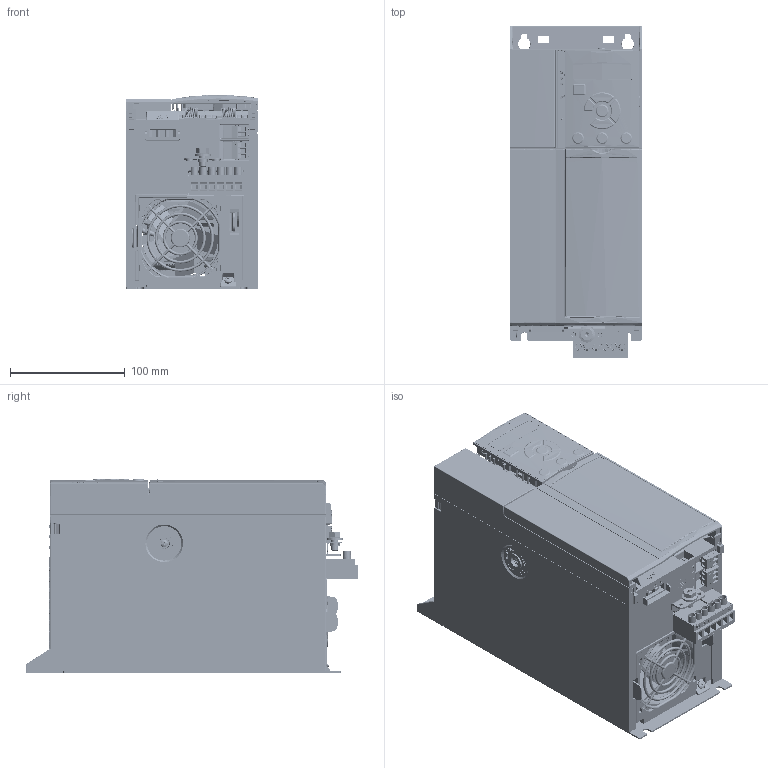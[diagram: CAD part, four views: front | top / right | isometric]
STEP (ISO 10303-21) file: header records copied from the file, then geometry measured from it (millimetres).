
FILE_DESCRIPTION((''),'2;1');
FILE_NAME('FC360_J3-IP20-1','2013-02-07T',('U248342'),('Danfoss Power Electronics'),'PRO/ENGINEER BY PARAMETRIC TECHNOLOGY CORPORATION, 2011490','PRO/ENGINEER BY PARAMETRIC TECHNOLOGY CORPORATION, 2011490','');
FILE_SCHEMA(('CONFIG_CONTROL_DESIGN', 'GEOMETRIC_VALIDATION_PROPERTIES_MIM'));
Products named in the file (1): FC360_J3-IP20-1
Bounding box: 115 x 288.8 x 168.6 mm (x, y, z)
Volume: 1147490.2 mm3; surface area: 928516.9 mm2
Topology: 38 solids, 96 shells, 27842 faces, 78012 edges, 50677 vertices
Faces by surface type: plane 16214, cylinder 8220, bspline 1160, torus 1028, cone 818, sphere 293, extrusion 109
Entity records: 1091621 total; most frequent: CARTESIAN_POINT 300116, ORIENTED_EDGE 155338, DIRECTION 136057, EDGE_CURVE 77669, VERTEX_POINT 50660, AXIS2_PLACEMENT_3D 45503, VECTOR 45051, LINE 44942
